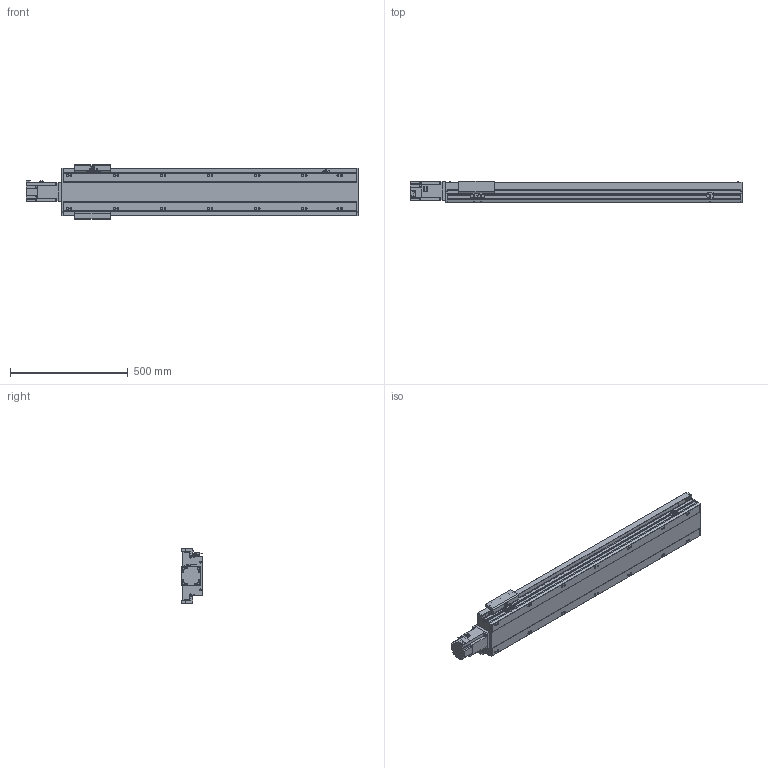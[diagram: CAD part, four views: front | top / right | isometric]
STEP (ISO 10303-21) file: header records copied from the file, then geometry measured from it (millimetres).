
FILE_DESCRIPTION(/* description */ ('STEP AP214'),/* implementation_level */ '2;1');
FILE_NAME(/* name */ 'PSM170-L10-S1000-BC-T75-C1-N(0)',/* time_stamp */ '2022-06-29T08:54:27+02:00',/* author */ ('License CC BY-ND 4.0'),/* organization */ ('CADENAS'),/* preprocessor_version */ 'ST-DEVELOPER v18.102',/* originating_system */ 'PARTsolutions',/* authorisation */ ' ');
FILE_SCHEMA (('AUTOMOTIVE_DESIGN {1 0 10303 214 3 1 1}'));
Length unit declared in the file: millimetre
Products named in the file (8): PSM170-L10-S1000-BC-T75-C1-N(0); PSM-Sensor; PSM140-S1000-1242.5; T75-p1; PSM170_body2; PSM170_body3; PSM170-S1000_body1; PSM170-L10-S1000-BC-T75-C1-N(0)_dummy
Assembly tree (11 placements, depth 2):
  PSM170-L10-S1000-BC-T75-C1-N(0)
    PSM-Sensor  x3
    PSM140-S1000-1242.5  x3
    T75-p1
    PSM170_body2
    PSM170_body3
    PSM170-S1000_body1
    PSM170-L10-S1000-BC-T75-C1-N(0)_dummy
Bounding box: 1411.3 x 92 x 233 mm (x, y, z)
Volume: 8391173.8 mm3; surface area: 1616528.5 mm2
Topology: 10 solids, 10 shells, 1087 faces, 2907 edges, 1892 vertices
Faces by surface type: plane 668, cylinder 337, cone 68, torus 14
Full cylindrical faces by diameter (mm): 2.8 x3, 3.08 x1, 4.134 x4, 4.5 x12, 4.6 x3, 5.7 x2, 6 x9, 6.647 x22, 7 x8, 7.6 x4, 8 x8, 8.5 x14, 10 x4, 14 x14, 45 x1, 70 x1
Entity records: 28740 total; most frequent: CARTESIAN_POINT 5350, DIRECTION 4774, ORIENTED_EDGE 4588, EDGE_CURVE 2294, AXIS2_PLACEMENT_3D 1623, VERTEX_POINT 1610, LINE 1528, VECTOR 1528
